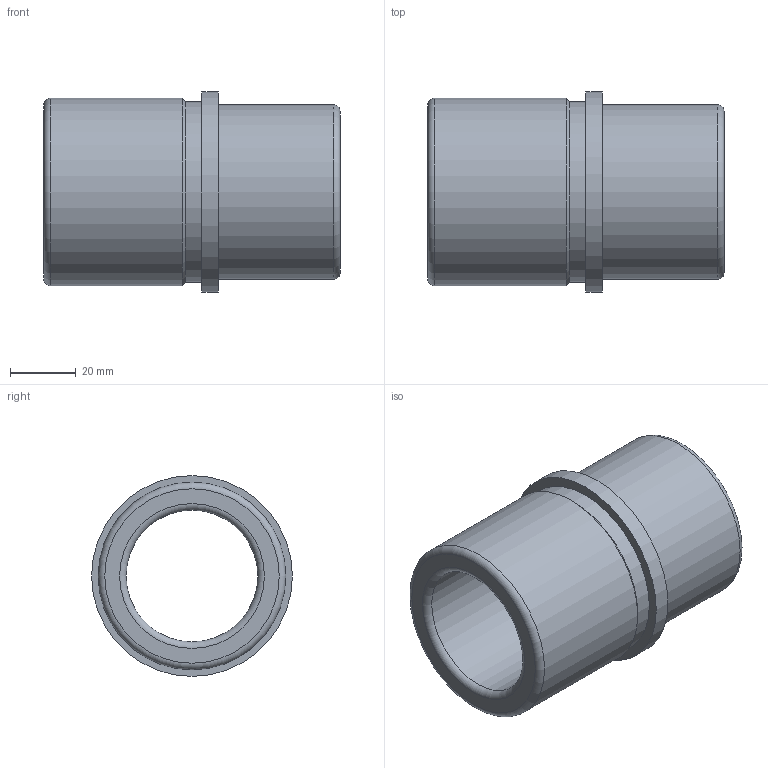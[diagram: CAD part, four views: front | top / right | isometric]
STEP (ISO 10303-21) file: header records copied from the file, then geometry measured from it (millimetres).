
FILE_DESCRIPTION( ( 'STEP AP214' ), '1' );
FILE_NAME( 'p:/temp/worker_57/temp/exporttempdir_5292_43_4z98u/format_0/WZ - 4053 30 x 90 - 40.stp', '2020-12-06T13:42:55', ( 'License CC BY-ND 4.0' ), ( 'CADENAS' ), ' ', 'PARTsolutions', ' ' );
FILE_SCHEMA( ( 'AUTOMOTIVE_DESIGN { 1 0 10303 214 1 1 1 1 }' ) );
Length unit declared in the file: millimetre
Products named in the file (1): _WZ - 4053 30 x 90 - 40
Bounding box: 90 x 61 x 61 mm (x, y, z)
Volume: 104147.7 mm3; surface area: 30057.5 mm2
Topology: 1 solids, 1 shells, 14 faces, 24 edges, 14 vertices
Faces by surface type: cylinder 5, plane 4, torus 4, cone 1
Full cylindrical faces by diameter (mm): 40 x1, 53 x1, 55 x1, 57 x1, 61 x1
Entity records: 416 total; most frequent: DIRECTION 58, CARTESIAN_POINT 43, AXIS2_PLACEMENT_3D 29, EDGE_LOOP 28, ORIENTED_EDGE 28, FACE_OUTER_BOUND 23, STYLED_ITEM 14, PRESENTATION_STYLE_ASSIGNMENT 14
